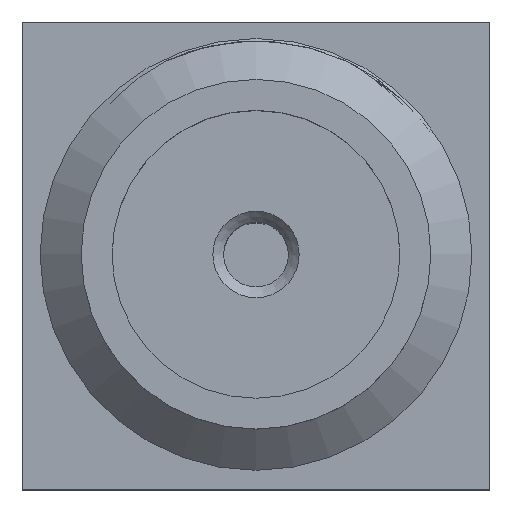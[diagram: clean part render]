
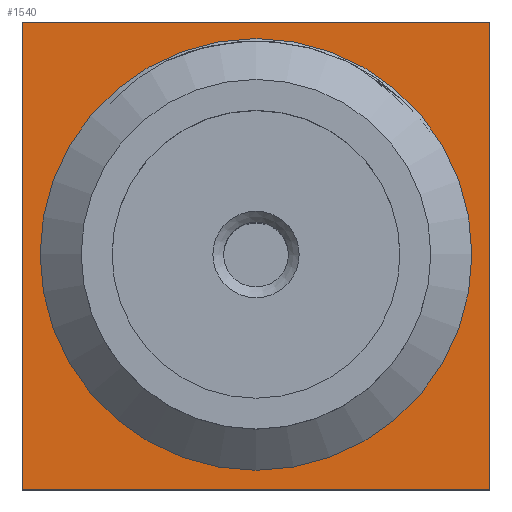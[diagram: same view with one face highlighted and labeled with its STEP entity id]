
A CAD part, top view. The second image highlights one B-rep face of the part: STEP entity #1540.
In plain terms, the highlighted planar face has unit normal (0, 0, 1).
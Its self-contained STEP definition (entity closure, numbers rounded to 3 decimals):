
#32=FACE_BOUND('',#246,.T.);
#66=PLANE('',#1661);
#152=FACE_OUTER_BOUND('',#245,.T.);
#245=EDGE_LOOP('',(#1358,#1359,#1360,#1361));
#246=EDGE_LOOP('',(#1362));
#280=CIRCLE('',#1658,2.);
#472=LINE('',#5081,#582);
#476=LINE('',#5089,#586);
#479=LINE('',#5095,#589);
#480=LINE('',#5096,#590);
#582=VECTOR('',#1957,10.);
#586=VECTOR('',#1963,10.);
#589=VECTOR('',#1968,10.);
#590=VECTOR('',#1969,10.);
#729=VERTEX_POINT('',#5075);
#730=VERTEX_POINT('',#5079);
#731=VERTEX_POINT('',#5080);
#734=VERTEX_POINT('',#5088);
#736=VERTEX_POINT('',#5094);
#944=EDGE_CURVE('',#729,#729,#280,.T.);
#945=EDGE_CURVE('',#730,#731,#472,.T.);
#949=EDGE_CURVE('',#734,#730,#476,.T.);
#952=EDGE_CURVE('',#736,#731,#479,.T.);
#953=EDGE_CURVE('',#734,#736,#480,.T.);
#1358=ORIENTED_EDGE('',*,*,#952,.F.);
#1359=ORIENTED_EDGE('',*,*,#953,.F.);
#1360=ORIENTED_EDGE('',*,*,#949,.T.);
#1361=ORIENTED_EDGE('',*,*,#945,.T.);
#1362=ORIENTED_EDGE('',*,*,#944,.T.);
#1540=ADVANCED_FACE('',(#152,#32),#66,.T.);
#1658=AXIS2_PLACEMENT_3D('',#5077,#1953,#1954);
#1661=AXIS2_PLACEMENT_3D('',#5093,#1966,#1967);
#1953=DIRECTION('center_axis',(0.,0.,-1.));
#1954=DIRECTION('ref_axis',(1.,0.,0.));
#1957=DIRECTION('',(0.,1.,0.));
#1963=DIRECTION('',(1.,0.,0.));
#1966=DIRECTION('center_axis',(0.,0.,1.));
#1967=DIRECTION('ref_axis',(1.,0.,0.));
#1968=DIRECTION('',(1.,0.,0.));
#1969=DIRECTION('',(0.,1.,0.));
#5075=CARTESIAN_POINT('',(-2.,0.,-4.87));
#5077=CARTESIAN_POINT('Origin',(0.,0.,-4.87));
#5079=CARTESIAN_POINT('',(3.25,-3.25,-4.87));
#5080=CARTESIAN_POINT('',(3.25,3.25,-4.87));
#5081=CARTESIAN_POINT('',(3.25,0.,-4.87));
#5088=CARTESIAN_POINT('',(-3.25,-3.25,-4.87));
#5089=CARTESIAN_POINT('',(0.,-3.25,-4.87));
#5093=CARTESIAN_POINT('Origin',(-3.25,0.,-4.87));
#5094=CARTESIAN_POINT('',(-3.25,3.25,-4.87));
#5095=CARTESIAN_POINT('',(0.,3.25,-4.87));
#5096=CARTESIAN_POINT('',(-3.25,0.,-4.87));
